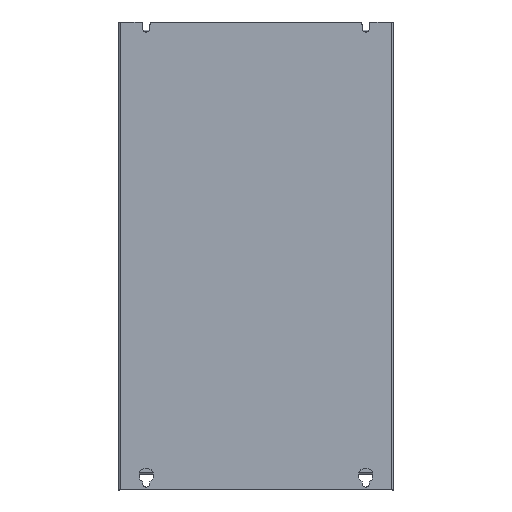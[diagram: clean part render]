
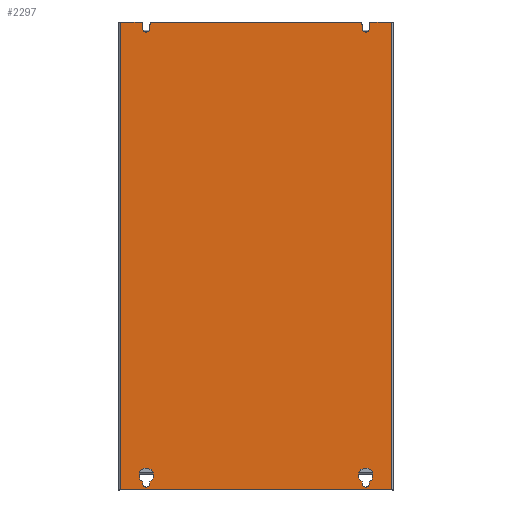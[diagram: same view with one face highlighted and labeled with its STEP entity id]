
A CAD part, top view. The second image highlights one B-rep face of the part: STEP entity #2297.
In plain terms, the highlighted planar face has unit normal (0, 0, 1).
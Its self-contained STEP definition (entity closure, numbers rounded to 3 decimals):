
#588=DIRECTION('',(0.,1.,0.));
#589=VECTOR('',#588,576.);
#590=CARTESIAN_POINT('',(-166.9,-288.,0.));
#591=LINE('',#590,#589);
#606=CARTESIAN_POINT('',(-135.,-280.,0.));
#607=DIRECTION('',(0.,0.,-1.));
#608=DIRECTION('',(1.,0.,0.));
#609=AXIS2_PLACEMENT_3D('',#606,#607,#608);
#611=DIRECTION('',(0.,1.,0.));
#612=VECTOR('',#611,2.206);
#613=CARTESIAN_POINT('',(-130.5,-280.,0.));
#614=LINE('',#613,#612);
#615=CARTESIAN_POINT('',(-135.,-270.,0.));
#616=DIRECTION('',(0.,0.,-1.));
#617=DIRECTION('',(-0.5,-0.866,0.));
#618=AXIS2_PLACEMENT_3D('',#615,#616,#617);
#620=DIRECTION('',(0.,-1.,0.));
#621=VECTOR('',#620,2.206);
#622=CARTESIAN_POINT('',(-139.5,-277.794,0.));
#623=LINE('',#622,#621);
#624=DIRECTION('',(0.,1.,0.));
#625=VECTOR('',#624,2.206);
#626=CARTESIAN_POINT('',(139.5,-280.,0.));
#627=LINE('',#626,#625);
#628=CARTESIAN_POINT('',(135.,-270.,0.));
#629=DIRECTION('',(0.,0.,-1.));
#630=DIRECTION('',(-0.5,-0.866,0.));
#631=AXIS2_PLACEMENT_3D('',#628,#629,#630);
#633=DIRECTION('',(0.,-1.,0.));
#634=VECTOR('',#633,2.206);
#635=CARTESIAN_POINT('',(130.5,-277.794,0.));
#636=LINE('',#635,#634);
#637=CARTESIAN_POINT('',(135.,-280.,0.));
#638=DIRECTION('',(0.,0.,-1.));
#639=DIRECTION('',(1.,0.,0.));
#640=AXIS2_PLACEMENT_3D('',#637,#638,#639);
#642=CARTESIAN_POINT('',(-142.5,285.,0.));
#643=DIRECTION('',(0.,0.,1.));
#644=DIRECTION('',(1.,0.,0.));
#645=AXIS2_PLACEMENT_3D('',#642,#643,#644);
#647=DIRECTION('',(0.,-1.,0.));
#648=VECTOR('',#647,5.);
#649=CARTESIAN_POINT('',(-139.5,285.,0.));
#650=LINE('',#649,#648);
#651=CARTESIAN_POINT('',(-135.,280.,0.));
#652=DIRECTION('',(0.,0.,-1.));
#653=DIRECTION('',(1.,0.,0.));
#654=AXIS2_PLACEMENT_3D('',#651,#652,#653);
#656=DIRECTION('',(0.,-1.,0.));
#657=VECTOR('',#656,5.);
#658=CARTESIAN_POINT('',(-130.5,285.,0.));
#659=LINE('',#658,#657);
#660=CARTESIAN_POINT('',(-127.5,285.,0.));
#661=DIRECTION('',(0.,0.,1.));
#662=DIRECTION('',(0.,1.,0.));
#663=AXIS2_PLACEMENT_3D('',#660,#661,#662);
#665=CARTESIAN_POINT('',(127.5,285.,0.));
#666=DIRECTION('',(0.,0.,1.));
#667=DIRECTION('',(1.,0.,0.));
#668=AXIS2_PLACEMENT_3D('',#665,#666,#667);
#670=DIRECTION('',(0.,-1.,0.));
#671=VECTOR('',#670,5.);
#672=CARTESIAN_POINT('',(130.5,285.,0.));
#673=LINE('',#672,#671);
#674=CARTESIAN_POINT('',(135.,280.,0.));
#675=DIRECTION('',(0.,0.,-1.));
#676=DIRECTION('',(1.,0.,0.));
#677=AXIS2_PLACEMENT_3D('',#674,#675,#676);
#679=DIRECTION('',(0.,-1.,0.));
#680=VECTOR('',#679,5.);
#681=CARTESIAN_POINT('',(139.5,285.,0.));
#682=LINE('',#681,#680);
#683=CARTESIAN_POINT('',(142.5,285.,0.));
#684=DIRECTION('',(0.,0.,1.));
#685=DIRECTION('',(0.,1.,0.));
#686=AXIS2_PLACEMENT_3D('',#683,#684,#685);
#806=DIRECTION('',(1.,0.,0.));
#807=VECTOR('',#806,24.4);
#808=CARTESIAN_POINT('',(-166.9,288.,0.));
#809=LINE('',#808,#807);
#868=DIRECTION('',(1.,0.,0.));
#869=VECTOR('',#868,255.);
#870=CARTESIAN_POINT('',(-127.5,288.,0.));
#871=LINE('',#870,#869);
#896=DIRECTION('',(1.,0.,0.));
#897=VECTOR('',#896,24.4);
#898=CARTESIAN_POINT('',(142.5,288.,0.));
#899=LINE('',#898,#897);
#913=DIRECTION('',(0.,1.,0.));
#914=VECTOR('',#913,576.);
#915=CARTESIAN_POINT('',(166.9,-288.,0.));
#916=LINE('',#915,#914);
#1012=DIRECTION('',(1.,0.,0.));
#1013=VECTOR('',#1012,333.8);
#1014=CARTESIAN_POINT('',(-166.9,-288.,0.));
#1015=LINE('',#1014,#1013);
#1134=CARTESIAN_POINT('',(-166.9,-288.,0.));
#1135=CARTESIAN_POINT('',(166.9,-288.,0.));
#1136=VERTEX_POINT('',#1134);
#1137=VERTEX_POINT('',#1135);
#1150=CARTESIAN_POINT('',(-166.9,288.,0.));
#1152=VERTEX_POINT('',#1150);
#1156=CARTESIAN_POINT('',(166.9,288.,0.));
#1157=VERTEX_POINT('',#1156);
#1166=CARTESIAN_POINT('',(-130.5,280.,0.));
#1167=CARTESIAN_POINT('',(-139.5,280.,0.));
#1168=VERTEX_POINT('',#1166);
#1169=VERTEX_POINT('',#1167);
#1170=CARTESIAN_POINT('',(-130.5,-280.,0.));
#1171=CARTESIAN_POINT('',(-139.5,-280.,0.));
#1172=VERTEX_POINT('',#1170);
#1173=VERTEX_POINT('',#1171);
#1174=CARTESIAN_POINT('',(-130.5,-277.794,0.));
#1175=VERTEX_POINT('',#1174);
#1176=CARTESIAN_POINT('',(-139.5,-277.794,0.));
#1177=VERTEX_POINT('',#1176);
#1178=CARTESIAN_POINT('',(139.5,-280.,0.));
#1179=CARTESIAN_POINT('',(139.5,-277.794,0.));
#1180=VERTEX_POINT('',#1178);
#1181=VERTEX_POINT('',#1179);
#1182=CARTESIAN_POINT('',(130.5,-277.794,0.));
#1183=VERTEX_POINT('',#1182);
#1184=CARTESIAN_POINT('',(130.5,-280.,0.));
#1185=VERTEX_POINT('',#1184);
#1186=CARTESIAN_POINT('',(139.5,280.,0.));
#1187=CARTESIAN_POINT('',(130.5,280.,0.));
#1188=VERTEX_POINT('',#1186);
#1189=VERTEX_POINT('',#1187);
#1214=CARTESIAN_POINT('',(-139.5,285.,0.));
#1215=CARTESIAN_POINT('',(-142.5,288.,0.));
#1216=VERTEX_POINT('',#1214);
#1217=VERTEX_POINT('',#1215);
#1222=CARTESIAN_POINT('',(-127.5,288.,0.));
#1223=CARTESIAN_POINT('',(-130.5,285.,0.));
#1224=VERTEX_POINT('',#1222);
#1225=VERTEX_POINT('',#1223);
#1230=CARTESIAN_POINT('',(142.5,288.,0.));
#1231=CARTESIAN_POINT('',(139.5,285.,0.));
#1232=VERTEX_POINT('',#1230);
#1233=VERTEX_POINT('',#1231);
#1238=CARTESIAN_POINT('',(130.5,285.,0.));
#1239=CARTESIAN_POINT('',(127.5,288.,0.));
#1240=VERTEX_POINT('',#1238);
#1241=VERTEX_POINT('',#1239);
#2239=CARTESIAN_POINT('',(-169.,-288.,0.));
#2240=DIRECTION('',(0.,0.,1.));
#2241=DIRECTION('',(1.,0.,0.));
#2242=AXIS2_PLACEMENT_3D('',#2239,#2240,#2241);
#2243=PLANE('',#2242);
#2245=ORIENTED_EDGE('',*,*,#2244,.F.);
#2247=ORIENTED_EDGE('',*,*,#2246,.T.);
#2249=ORIENTED_EDGE('',*,*,#2248,.F.);
#2251=ORIENTED_EDGE('',*,*,#2250,.F.);
#2253=ORIENTED_EDGE('',*,*,#2252,.F.);
#2255=ORIENTED_EDGE('',*,*,#2254,.T.);
#2257=ORIENTED_EDGE('',*,*,#2256,.F.);
#2259=ORIENTED_EDGE('',*,*,#2258,.T.);
#2261=ORIENTED_EDGE('',*,*,#2260,.F.);
#2263=ORIENTED_EDGE('',*,*,#2262,.F.);
#2265=ORIENTED_EDGE('',*,*,#2264,.F.);
#2267=ORIENTED_EDGE('',*,*,#2266,.T.);
#2269=ORIENTED_EDGE('',*,*,#2268,.F.);
#2271=ORIENTED_EDGE('',*,*,#2270,.F.);
#2272=ORIENTED_EDGE('',*,*,#2230,.T.);
#2274=ORIENTED_EDGE('',*,*,#2273,.T.);
#2275=EDGE_LOOP('',(#2245,#2247,#2249,#2251,#2253,#2255,#2257,#2259,#2261,#2263,
#2265,#2267,#2269,#2271,#2272,#2274));
#2276=FACE_OUTER_BOUND('',#2275,.F.);
#2278=ORIENTED_EDGE('',*,*,#2277,.T.);
#2280=ORIENTED_EDGE('',*,*,#2279,.F.);
#2282=ORIENTED_EDGE('',*,*,#2281,.T.);
#2284=ORIENTED_EDGE('',*,*,#2283,.F.);
#2285=EDGE_LOOP('',(#2278,#2280,#2282,#2284));
#2286=FACE_BOUND('',#2285,.F.);
#2288=ORIENTED_EDGE('',*,*,#2287,.F.);
#2290=ORIENTED_EDGE('',*,*,#2289,.T.);
#2292=ORIENTED_EDGE('',*,*,#2291,.F.);
#2294=ORIENTED_EDGE('',*,*,#2293,.T.);
#2295=EDGE_LOOP('',(#2288,#2290,#2292,#2294));
#2296=FACE_BOUND('',#2295,.F.);
#610=CIRCLE('',#609,4.5);
#619=CIRCLE('',#618,9.);
#632=CIRCLE('',#631,9.);
#641=CIRCLE('',#640,4.5);
#646=CIRCLE('',#645,3.);
#655=CIRCLE('',#654,4.5);
#664=CIRCLE('',#663,3.);
#669=CIRCLE('',#668,3.);
#678=CIRCLE('',#677,4.5);
#687=CIRCLE('',#686,3.);
#2230=EDGE_CURVE('',#1136,#1152,#591,.T.);
#2244=EDGE_CURVE('',#1216,#1217,#646,.T.);
#2246=EDGE_CURVE('',#1216,#1169,#650,.T.);
#2248=EDGE_CURVE('',#1168,#1169,#655,.T.);
#2250=EDGE_CURVE('',#1225,#1168,#659,.T.);
#2252=EDGE_CURVE('',#1224,#1225,#664,.T.);
#2254=EDGE_CURVE('',#1224,#1241,#871,.T.);
#2256=EDGE_CURVE('',#1240,#1241,#669,.T.);
#2258=EDGE_CURVE('',#1240,#1189,#673,.T.);
#2260=EDGE_CURVE('',#1188,#1189,#678,.T.);
#2262=EDGE_CURVE('',#1233,#1188,#682,.T.);
#2264=EDGE_CURVE('',#1232,#1233,#687,.T.);
#2266=EDGE_CURVE('',#1232,#1157,#899,.T.);
#2268=EDGE_CURVE('',#1137,#1157,#916,.T.);
#2270=EDGE_CURVE('',#1136,#1137,#1015,.T.);
#2273=EDGE_CURVE('',#1152,#1217,#809,.T.);
#2277=EDGE_CURVE('',#1180,#1181,#627,.T.);
#2279=EDGE_CURVE('',#1183,#1181,#632,.T.);
#2281=EDGE_CURVE('',#1183,#1185,#636,.T.);
#2283=EDGE_CURVE('',#1180,#1185,#641,.T.);
#2287=EDGE_CURVE('',#1172,#1173,#610,.T.);
#2289=EDGE_CURVE('',#1172,#1175,#614,.T.);
#2291=EDGE_CURVE('',#1177,#1175,#619,.T.);
#2293=EDGE_CURVE('',#1177,#1173,#623,.T.);
#2297=ADVANCED_FACE('',(#2276,#2286,#2296),#2243,.T.);
